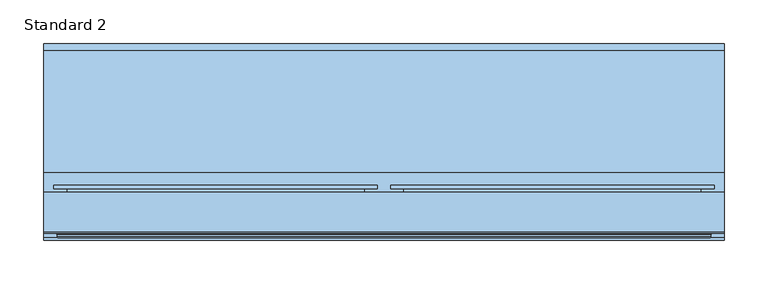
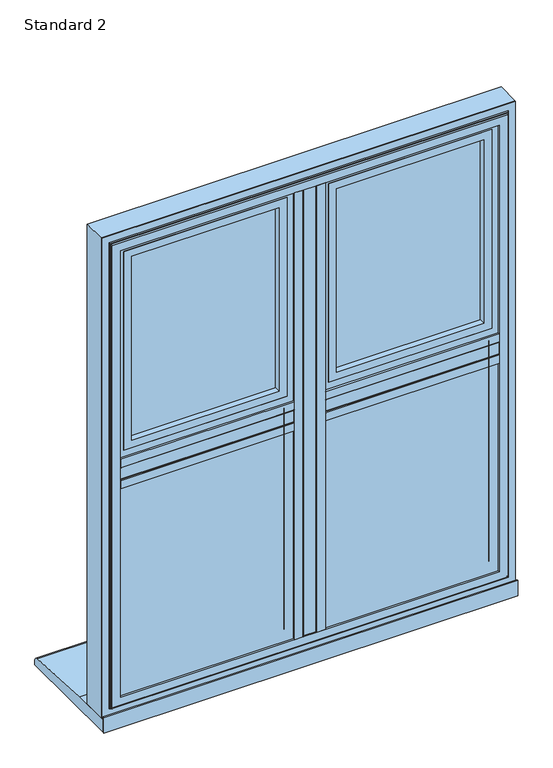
"""IFC4 building model written with IfcOpenShell, lengths in millimetres: window geometry, SMARTS_AlithermHeritage : Standard 2."""

from ifc_helpers import new_model, si_unit, point, frame, frame_2d, origin, place, context, project, spatial, polyline, circle_curve, ellipse_curve, trimmed, segment, composite_curve, outline, extrude, faceted_brep, source, transform, mapped, element, save
from ifc_brep_helpers import plane_surface, cylinder_surface, revolved_surface, advanced_brep


def standard_2_dd93400c(model_context):
    return source(origin(), model_context, "Body", "SolidModel", [
        extrude(outline(polyline([(-13.6941456, 95.2798432), (13.6941456, 95.2798432), (13.6941456, 47.279476), (-13.6941456, 47.279476), (-13.6941456, 95.2798432)])), frame((0.0, 0.0, 652.6941456), z_axis=(0.0, 0.0, 1.0), x_axis=(1.0, 0.0, 0.0)), (0.0, 0.0, 1.0), 919.6117089),
        extrude(outline(composite_curve([segment(polyline([(-29.0, 47.279476), (29.0, 47.279476), (29.0, 43.2798432), (13.0, 43.2798432)]), True, "CONTINUOUS"), segment(trimmed(circle_curve(frame_2d((13.0, 44.2798432)), 1.0), [point((13.0, 43.2798432))], [point((12.0, 44.2798432))], False, "CARTESIAN"), True, "CONTINUOUS"), segment(polyline([(12.0, 44.2798432), (12.0, 45.7798432), (-12.0, 45.7798432), (-12.0, 44.2798432)]), True, "CONTINUOUS"), segment(trimmed(circle_curve(frame_2d((-13.0, 44.2798432)), 1.0), [point((-12.0, 44.2798432))], [point((-13.0, 43.2798432))], False, "CARTESIAN"), True, "CONTINUOUS"), segment(polyline([(-13.0, 43.2798432), (-29.0, 43.2798432), (-29.0, 47.279476)]), True, "CONTINUOUS")], self_intersect=False)), frame((0.0, 0.0, 668.0), z_axis=(0.0, 0.0, 1.0), x_axis=(1.0, 0.0, 0.0)), (0.0, 0.0, 1.0), 889.0),
        extrude(outline(polyline([(-13.6941456, 95.2798432), (-13.6941456, 47.279476), (-372.3058544, 47.279476), (-372.3058544, 95.2798432), (-13.6941456, 95.2798432)])), frame((0.0, 0.0, 1098.8058544), z_axis=(0.0, 0.0, 1.0), x_axis=(1.0, 0.0, 0.0)), (0.0, 0.0, 1.0), 27.3882911),
        extrude(outline(composite_curve([segment(polyline([(47.279476, 1083.5), (43.2798432, 1083.5), (43.2798432, 1099.5)]), True, "CONTINUOUS"), segment(trimmed(circle_curve(frame_2d((44.2798432, 1099.5)), 1.0), [point((43.2798432, 1099.5))], [point((44.2798432, 1100.5))], False, "CARTESIAN"), True, "CONTINUOUS"), segment(polyline([(44.2798432, 1100.5), (45.7798432, 1100.5), (45.7798432, 1124.5), (44.2798432, 1124.5)]), True, "CONTINUOUS"), segment(trimmed(circle_curve(frame_2d((44.2798432, 1125.5)), 1.0), [point((44.2798432, 1124.5))], [point((43.2798432, 1125.5))], False, "CARTESIAN"), True, "CONTINUOUS"), segment(polyline([(43.2798432, 1125.5), (43.2798432, 1141.5), (47.279476, 1141.5), (47.279476, 1083.5)]), True, "CONTINUOUS")], self_intersect=False)), frame((-357.0, 0.0, 0.0), z_axis=(1.0, 0.0, 0.0), x_axis=(0.0, 1.0, 0.0)), (0.0, 0.0, 1.0), 328.0),
        extrude(outline(polyline([(372.3058544, 95.2798432), (372.3058544, 47.279476), (13.6941456, 47.279476), (13.6941456, 95.2798432), (372.3058544, 95.2798432)])), frame((0.0, 0.0, 1098.8058544), z_axis=(0.0, 0.0, 1.0), x_axis=(1.0, 0.0, 0.0)), (0.0, 0.0, 1.0), 27.3882911),
        extrude(outline(composite_curve([segment(polyline([(47.279476, 1083.5), (43.2798432, 1083.5), (43.2798432, 1099.5)]), True, "CONTINUOUS"), segment(trimmed(circle_curve(frame_2d((44.2798432, 1099.5)), 1.0), [point((43.2798432, 1099.5))], [point((44.2798432, 1100.5))], False, "CARTESIAN"), True, "CONTINUOUS"), segment(polyline([(44.2798432, 1100.5), (45.7798432, 1100.5), (45.7798432, 1124.5), (44.2798432, 1124.5)]), True, "CONTINUOUS"), segment(trimmed(circle_curve(frame_2d((44.2798432, 1125.5)), 1.0), [point((44.2798432, 1124.5))], [point((43.2798432, 1125.5))], False, "CARTESIAN"), True, "CONTINUOUS"), segment(polyline([(43.2798432, 1125.5), (43.2798432, 1141.5), (47.279476, 1141.5), (47.279476, 1083.5)]), True, "CONTINUOUS")], self_intersect=False)), frame((29.0, 0.0, 0.0), z_axis=(1.0, 0.0, 0.0), x_axis=(0.0, 1.0, 0.0)), (0.0, 0.0, 1.0), 328.0),
        extrude(outline(polyline([(-367.0, 75.2798432), (-19.0, 75.2798432), (-19.0, 71.2798432), (-367.0, 71.2798432), (-367.0, 75.2798432)])), frame((0.0, 0.0, 658.0), z_axis=(0.0, 0.0, 1.0), x_axis=(1.0, 0.0, 0.0)), (0.0, 0.0, 1.0), 435.5),
        extrude(outline(polyline([(-367.0, 55.2798432), (-19.0, 55.2798432), (-19.0, 51.2798432), (-367.0, 51.2798432), (-367.0, 55.2798432)])), frame((0.0, 0.0, 658.0), z_axis=(0.0, 0.0, 1.0), x_axis=(1.0, 0.0, 0.0)), (0.0, 0.0, 1.0), 435.5),
        extrude(outline(polyline([(1093.5, -367.0), (658.0, -367.0), (658.0, -19.0), (1093.5, -19.0), (1093.5, -367.0)]), holes=[polyline([(1083.5, -29.0), (668.0, -29.0), (668.0, -357.0), (1083.5, -357.0), (1083.5, -29.0)])]), frame((0.0, 55.2798432, 0.0), z_axis=(0.0, 1.0, 0.0), x_axis=(0.0, 0.0, 1.0)), (0.0, 0.0, 1.0), 16.0),
        faceted_brep([(-19.1851151, 95.2798432, 1093.3148849), (-29.0, 78.2798098, 1083.5), (-357.0, 78.2798098, 1083.5), (-366.8148849, 95.2798432, 1093.3148849), (-13.6297324, 78.2798098, 1098.8702676), (-13.6297324, 95.2798432, 1098.8702676), (-372.3702676, 95.2798432, 1098.8702676), (-372.3702676, 78.2798098, 1098.8702676), (-372.3702676, 78.2798098, 652.6297324), (-372.3702676, 95.2798432, 652.6297324), (-13.6297324, 95.2798432, 652.6297324), (-13.6297324, 78.2798098, 652.6297324), (-366.8148849, 95.2798432, 658.1851151), (-19.1851151, 95.2798432, 658.1851151), (-29.0, 78.2798098, 668.0), (-357.0, 78.2798098, 668.0)], [[[0, 1, 2, 3]], [[4, 5, 6, 7]], [[8, 9, 10, 11]], [[5, 10, 9, 6], [3, 12, 13, 0]], [[7, 8, 11, 4], [1, 14, 15, 2]], [[3, 2, 15, 12]], [[7, 6, 9, 8]], [[12, 15, 14, 13]], [[13, 14, 1, 0]], [[11, 10, 5, 4]]]),
        extrude(outline(polyline([(-343.5, 89.2798432), (-42.5, 89.2798432), (-42.5, 85.2798432), (-343.5, 85.2798432), (-343.5, 89.2798432)])), frame((0.0, 0.0, 1155.0), z_axis=(0.0, 0.0, 1.0), x_axis=(1.0, 0.0, 0.0)), (0.0, 0.0, 1.0), 388.5),
        extrude(outline(polyline([(-343.5, 69.2798432), (-42.5, 69.2798432), (-42.5, 65.2798432), (-343.5, 65.2798432), (-343.5, 69.2798432)])), frame((0.0, 0.0, 1155.0), z_axis=(0.0, 0.0, 1.0), x_axis=(1.0, 0.0, 0.0)), (0.0, 0.0, 1.0), 388.5),
        extrude(outline(polyline([(1543.5, -343.5), (1155.0, -343.5), (1155.0, -42.5), (1543.5, -42.5), (1543.5, -343.5)]), holes=[polyline([(1533.5, -52.5), (1165.0, -52.5), (1165.0, -333.5), (1533.5, -333.5), (1533.5, -52.5)])]), frame((0.0, 69.2798432, 0.0), z_axis=(0.0, 1.0, 0.0), x_axis=(0.0, 0.0, 1.0)), (0.0, 0.0, 1.0), 16.0),
        extrude(outline(polyline([(1547.0052956, -347.0052956), (1151.4947044, -347.0052956), (1151.4947044, -38.9947044), (1547.0052956, -38.9947044), (1547.0052956, -347.0052956)]), holes=[polyline([(1532.0, -54.0), (1166.5, -54.0), (1166.5, -332.0), (1532.0, -332.0), (1532.0, -54.0)])]), frame((0.0, 51.2798432, 0.0), z_axis=(0.0, 1.0, 0.0), x_axis=(0.0, 0.0, 1.0)), (0.0, 0.0, 1.0), 11.3),
        extrude(outline(polyline([(1135.8548042, -362.6451958), (1135.8548042, -23.3548042), (1562.6451958, -23.3548042), (1562.6451958, -362.6451958), (1135.8548042, -362.6451958)]), holes=[polyline([(1547.0, -347.0), (1547.0, -39.0), (1151.5, -39.0), (1151.5, -347.0), (1547.0, -347.0)])]), frame((0.0, 51.2798432, 0.0), z_axis=(0.0, 1.0, 0.0), x_axis=(0.0, 0.0, 1.0)), (0.0, 0.0, 1.0), 41.6),
        advanced_brep(
        [(-332.0, 98.0798432, 1532.0), (-332.0, 92.8798432, 1532.0), (-332.0, 92.8798432, 1166.5), (-332.0, 98.0798432, 1166.5), (-54.0, 92.8798432, 1166.5), (-54.0, 98.0798432, 1166.5), (-54.0, 92.8798432, 1532.0), (-54.0, 98.0798432, 1532.0), (-378.2, 99.2798432, 1578.2), (-378.2, 103.2798432, 1578.2), (-378.2, 103.2798432, 1120.3), (-378.2, 99.2798432, 1120.3), (-7.8, 103.2798432, 1120.3), (-7.8, 99.2798432, 1120.3), (-7.8, 103.2798432, 1578.2), (-7.8, 99.2798432, 1578.2), (-363.1467657, 99.2798432, 1563.1467657), (-22.8532343, 99.2798432, 1563.1467657), (-22.8532343, 99.2798432, 1135.3532343), (-363.1467657, 99.2798432, 1135.3532343), (-349.2, 103.2798432, 1149.3), (-36.8, 103.2798432, 1149.3), (-36.8, 103.2798432, 1549.2), (-349.2, 103.2798432, 1549.2), (-363.1467657, 92.8798432, 1563.1467657), (-363.1467657, 92.8798432, 1135.3532343), (-22.8532343, 92.8798432, 1135.3532343), (-22.8532343, 92.8798432, 1563.1467657), (-347.2, 101.2798432, 1547.2), (-347.2, 100.0798432, 1547.2), (-347.2, 100.0798432, 1151.3), (-347.2, 101.2798432, 1151.3), (-345.2, 98.0798432, 1545.2), (-345.2, 98.0798432, 1153.3), (-38.8, 100.0798432, 1151.3), (-38.8, 101.2798432, 1151.3), (-40.8, 98.0798432, 1153.3), (-38.8, 100.0798432, 1547.2), (-38.8, 101.2798432, 1547.2), (-40.8, 98.0798432, 1545.2)],
        [
            (0, 1),
            (1, 2),
            (2, 3),
            (3, 0),
            (2, 4),
            (4, 5),
            (5, 3),
            (4, 6),
            (6, 7),
            (7, 5),
            (6, 1),
            (0, 7),
            (8, 9),
            (9, 10),
            (10, 11),
            (11, 8),
            (10, 12),
            (12, 13),
            (13, 11),
            (12, 14),
            (14, 15),
            (15, 13),
            (15, 8),
            (16, 17),
            (17, 18),
            (18, 19),
            (19, 16),
            (14, 9),
            (20, 21),
            (21, 22),
            (22, 23),
            (23, 20),
            (24, 16),
            (19, 25),
            (25, 24),
            (18, 26),
            (26, 25),
            (17, 27),
            (27, 26),
            (27, 24),
            (28, 29),
            (29, 30),
            (30, 31),
            (31, 28),
            (29, 32, ellipse_curve(frame((-345.2, 100.0798432, 1545.2), z_axis=(0.7071067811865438, 0.0, 0.7071067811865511), x_axis=(0.707106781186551, 0.0, -0.7071067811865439)), 2.8284271, 2.0)),
            (32, 33),
            (33, 30, ellipse_curve(frame((-345.2, 100.0798432, 1153.3), z_axis=(0.7071067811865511, 0.0, -0.7071067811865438), x_axis=(-0.7071067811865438, 0.0, -0.7071067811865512)), 2.8284271, 2.0)),
            (30, 34),
            (34, 35),
            (35, 31),
            (33, 36),
            (36, 34, ellipse_curve(frame((-40.8, 100.0798432, 1153.3), z_axis=(0.7071067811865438, 0.0, 0.7071067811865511), x_axis=(0.7071067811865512, 0.0, -0.7071067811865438)), 2.8284271, 2.0)),
            (34, 37),
            (37, 38),
            (38, 35),
            (36, 39),
            (39, 37, ellipse_curve(frame((-40.8, 100.0798432, 1545.2), z_axis=(-0.7071067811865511, 0.0, 0.7071067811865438), x_axis=(0.7071067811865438, 0.0, 0.7071067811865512)), 2.8284271, 2.0)),
            (32, 39),
            (37, 29),
            (28, 38),
            (23, 28, ellipse_curve(frame((-349.2, 101.2798432, 1549.2), z_axis=(-0.7071067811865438, 0.0, -0.7071067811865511), x_axis=(-0.707106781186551, 0.0, 0.7071067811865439)), 2.8284271, 2.0)),
            (31, 20, ellipse_curve(frame((-349.2, 101.2798432, 1149.3), z_axis=(-0.7071067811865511, 0.0, 0.7071067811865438), x_axis=(0.7071067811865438, 0.0, 0.7071067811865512)), 2.8284271, 2.0)),
            (35, 21, ellipse_curve(frame((-36.8, 101.2798432, 1149.3), z_axis=(-0.7071067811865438, 0.0, -0.7071067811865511), x_axis=(-0.7071067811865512, 0.0, 0.7071067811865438)), 2.8284271, 2.0)),
            (38, 22, ellipse_curve(frame((-36.8, 101.2798432, 1549.2), z_axis=(0.7071067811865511, 0.0, -0.7071067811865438), x_axis=(-0.7071067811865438, 0.0, -0.7071067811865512)), 2.8284271, 2.0)),
        ],
        [
            plane_surface(frame((-332.0, 92.8798432, 1532.0), z_axis=(1.0, 0.0, 0.0), x_axis=(0.0, 0.0, -1.0))),
            plane_surface(frame((-332.0, 92.8798432, 1166.5), z_axis=(0.0, 0.0, 1.0), x_axis=(1.0, 0.0, 0.0))),
            plane_surface(frame((-54.0, 92.8798432, 1166.5), z_axis=(-1.0, 0.0, 0.0), x_axis=(0.0, 0.0, 1.0))),
            plane_surface(frame((-54.0, 92.8798432, 1532.0), z_axis=(0.0, 0.0, -1.0), x_axis=(-1.0, 0.0, 0.0))),
            plane_surface(frame((-378.2, 103.2798432, 1578.2), z_axis=(-1.0, 0.0, 0.0), x_axis=(0.0, 0.0, -1.0))),
            plane_surface(frame((-378.2, 103.2798432, 1120.3), z_axis=(0.0, 0.0, -1.0), x_axis=(1.0, 0.0, 0.0))),
            plane_surface(frame((-7.8, 103.2798432, 1120.3), z_axis=(1.0, 0.0, 0.0), x_axis=(0.0, 0.0, 1.0))),
            plane_surface(frame((-7.8, 99.2798432, 1578.2), z_axis=(0.0, -1.0, 0.0), x_axis=(-1.0, 0.0, 0.0))),
            plane_surface(frame((-7.8, 103.2798432, 1578.2), z_axis=(0.0, 0.0, 1.0), x_axis=(-1.0, 0.0, 0.0))),
            plane_surface(frame((-36.8, 103.2798432, 1549.2), z_axis=(0.0, 1.0, 0.0), x_axis=(-1.0, 0.0, 0.0))),
            plane_surface(frame((-363.1467657, 99.2798432, 1563.1467657), z_axis=(-1.0, 0.0, 0.0), x_axis=(0.0, 0.0, -1.0))),
            plane_surface(frame((-363.1467657, 99.2798432, 1135.3532343), z_axis=(0.0, 0.0, -1.0), x_axis=(1.0, 0.0, 0.0))),
            plane_surface(frame((-22.8532343, 99.2798432, 1135.3532343), z_axis=(1.0, 0.0, 0.0), x_axis=(0.0, 0.0, 1.0))),
            plane_surface(frame((-22.8532343, 92.8798432, 1563.1467657), z_axis=(0.0, -1.0, 0.0), x_axis=(-1.0, 0.0, 0.0))),
            plane_surface(frame((-22.8532343, 99.2798432, 1563.1467657), z_axis=(0.0, 0.0, 1.0), x_axis=(-1.0, 0.0, 0.0))),
            plane_surface(frame((-347.2, 100.0798432, 1547.2), z_axis=(1.0, 0.0, 0.0), x_axis=(0.0, 0.0, -1.0))),
            revolved_surface(polyline([(-347.2, 100.0798432, 1151.3), (-347.2, 100.0798432, 1547.2)]), (-345.2, 100.0798432, 1557.0), (0.0, 0.0, -1.0)),
            plane_surface(frame((-347.2, 100.0798432, 1151.3), z_axis=(0.0, 0.0, 1.0), x_axis=(1.0, 0.0, 0.0))),
            revolved_surface(polyline([(-38.80000000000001, 100.0798432, 1151.3), (-347.2, 100.0798432, 1151.3)]), (-357.0, 100.0798432, 1153.3), (1.0, 0.0, 0.0)),
            plane_surface(frame((-38.8, 100.0798432, 1151.3), z_axis=(-1.0, 0.0, 0.0), x_axis=(0.0, 0.0, 1.0))),
            revolved_surface(polyline([(-38.8, 100.0798432, 1547.2), (-38.8, 100.0798432, 1151.3)]), (-40.8, 100.0798432, 1141.5), (0.0, 0.0, 1.0)),
            plane_surface(frame((-54.0, 98.0798432, 1532.0), z_axis=(0.0, 1.0, 0.0), x_axis=(-1.0, 0.0, 0.0))),
            plane_surface(frame((-38.8, 100.0798432, 1547.2), z_axis=(0.0, 0.0, -1.0), x_axis=(-1.0, 0.0, 0.0))),
            revolved_surface(polyline([(-347.2, 100.0798432, 1547.2), (-38.8, 100.0798432, 1547.2)]), (-29.0, 100.0798432, 1545.2), (-1.0, 0.0, 0.0)),
            cylinder_surface(frame((-349.2, 101.2798432, 1557.0), z_axis=(0.0, 0.0, 1.0), x_axis=(-1.0, 0.0, 0.0)), 2.0),
            cylinder_surface(frame((-357.0, 101.2798432, 1149.3), z_axis=(-1.0, 0.0, 0.0), x_axis=(0.0, 0.0, -1.0)), 2.0),
            cylinder_surface(frame((-36.8, 101.2798432, 1141.5), z_axis=(0.0, 0.0, -1.0), x_axis=(1.0, 0.0, 0.0)), 2.0),
            cylinder_surface(frame((-29.0, 101.2798432, 1549.2), z_axis=(1.0, 0.0, 0.0), x_axis=(0.0, 0.0, 1.0)), 2.0),
        ],
        [
            (0, [[1, 2, 3, 4]]),
            (1, [[-3, 5, 6, 7]]),
            (2, [[-6, 8, 9, 10]]),
            (3, [[-9, 11, -1, 12]]),
            (4, [[13, 14, 15, 16]]),
            (5, [[-15, 17, 18, 19]]),
            (6, [[-18, 20, 21, 22]]),
            (7, [[-19, -22, 23, -16], [24, 25, 26, 27]]),
            (8, [[-21, 28, -13, -23]]),
            (9, [[-28, -20, -17, -14], [29, 30, 31, 32]]),
            (10, [[33, -27, 34, 35]]),
            (11, [[-34, -26, 36, 37]]),
            (12, [[-36, -25, 38, 39]]),
            (13, [[-37, -39, 40, -35], [-11, -8, -5, -2]]),
            (14, [[-38, -24, -33, -40]]),
            (15, [[41, 42, 43, 44]]),
            (16, [[45, 46, 47, -42]]),
            (17, [[-43, 48, 49, 50]]),
            (18, [[-47, 51, 52, -48]]),
            (19, [[-49, 53, 54, 55]]),
            (20, [[-52, 56, 57, -53]]),
            (21, [[58, -56, -51, -46], [-7, -10, -12, -4]]),
            (22, [[-54, 59, -41, 60]]),
            (23, [[-57, -58, -45, -59]]),
            (24, [[61, -44, 62, -32]]),
            (25, [[-62, -50, 63, -29]]),
            (26, [[-63, -55, 64, -30]]),
            (27, [[-64, -60, -61, -31]]),
        ],
    ),
        extrude(outline(polyline([(19.0, 75.2798432), (367.0, 75.2798432), (367.0, 71.2798432), (19.0, 71.2798432), (19.0, 75.2798432)])), frame((0.0, 0.0, 658.0), z_axis=(0.0, 0.0, 1.0), x_axis=(1.0, 0.0, 0.0)), (0.0, 0.0, 1.0), 435.5),
        extrude(outline(polyline([(19.0, 55.2798432), (367.0, 55.2798432), (367.0, 51.2798432), (19.0, 51.2798432), (19.0, 55.2798432)])), frame((0.0, 0.0, 658.0), z_axis=(0.0, 0.0, 1.0), x_axis=(1.0, 0.0, 0.0)), (0.0, 0.0, 1.0), 435.5),
        extrude(outline(polyline([(1093.5, 19.0), (658.0, 19.0), (658.0, 367.0), (1093.5, 367.0), (1093.5, 19.0)]), holes=[polyline([(1083.5, 357.0), (668.0, 357.0), (668.0, 29.0), (1083.5, 29.0), (1083.5, 357.0)])]), frame((0.0, 55.2798432, 0.0), z_axis=(0.0, 1.0, 0.0), x_axis=(0.0, 0.0, 1.0)), (0.0, 0.0, 1.0), 16.0),
        faceted_brep([(366.8148849, 95.2798432, 1093.3148849), (357.0, 78.2798098, 1083.5), (29.0, 78.2798098, 1083.5), (19.1851151, 95.2798432, 1093.3148849), (372.3702676, 78.2798098, 1098.8702676), (372.3702676, 95.2798432, 1098.8702676), (13.6297324, 95.2798432, 1098.8702676), (13.6297324, 78.2798098, 1098.8702676), (13.6297324, 78.2798098, 652.6297324), (13.6297324, 95.2798432, 652.6297324), (372.3702676, 95.2798432, 652.6297324), (372.3702676, 78.2798098, 652.6297324), (19.1851151, 95.2798432, 658.1851151), (366.8148849, 95.2798432, 658.1851151), (357.0, 78.2798098, 668.0), (29.0, 78.2798098, 668.0)], [[[0, 1, 2, 3]], [[4, 5, 6, 7]], [[8, 9, 10, 11]], [[5, 10, 9, 6], [3, 12, 13, 0]], [[7, 8, 11, 4], [1, 14, 15, 2]], [[3, 2, 15, 12]], [[7, 6, 9, 8]], [[12, 15, 14, 13]], [[13, 14, 1, 0]], [[11, 10, 5, 4]]]),
        extrude(outline(polyline([(1590.0, 390.0), (1590.0, -390.0), (635.0, -390.0), (635.0, 390.0), (1590.0, 390.0)]), holes=[polyline([(652.7000182, 372.2999818), (652.7000182, -372.2999818), (1572.2999818, -372.2999818), (1572.2999818, 372.2999818), (652.7000182, 372.2999818)])]), frame((0.0, 50.279857, 0.0), z_axis=(0.0, 1.0, 0.0), x_axis=(0.0, 0.0, 1.0)), (0.0, 0.0, 1.0), 44.9999962),
        advanced_brep(
        [(357.0, 43.2798432, 1557.0), (357.0, 47.2798432, 1557.0), (357.0, 47.2798432, 668.0), (357.0, 43.2798432, 668.0), (390.0, 50.279857, 1590.0), (390.0, 48.279857, 1590.0), (390.0, 48.279857, 635.0), (390.0, 50.279857, 635.0), (372.4999818, 43.2798432, 1572.4999818), (-372.4999818, 43.2798432, 1572.4999818), (-372.4999818, 43.2798432, 652.5000182), (372.4999818, 43.2798432, 652.5000182), (-357.0, 43.2798432, 668.0), (-357.0, 43.2798432, 1557.0), (-390.0, 50.279857, 1590.0), (-390.0, 48.279857, 1590.0), (-390.0, 50.279857, 635.0), (372.2999818, 50.279857, 1572.2999818), (-372.2999818, 50.279857, 1572.2999818), (-372.2999818, 50.279857, 652.7000182), (372.2999818, 50.279857, 652.7000182), (-357.0, 47.2798432, 1557.0), (-357.0, 47.2798432, 668.0), (-390.0, 48.279857, 635.0), (-372.2999818, 47.2798432, 1572.2999818), (372.2999818, 47.2798432, 1572.2999818), (372.2999818, 47.2798432, 652.7000182), (374.4999818, 46.779857, 650.5000182), (374.4999818, 45.2798432, 650.5000182), (-374.4999818, 45.2798432, 650.5000182), (-374.4999818, 46.779857, 650.5000182), (374.4999818, 46.779857, 1574.4999818), (374.4999818, 45.2798432, 1574.4999818), (-372.2999818, 47.2798432, 652.7000182), (-374.4999818, 45.2798432, 1574.4999818), (-374.4999818, 46.779857, 1574.4999818), (375.9999818, 48.279857, 1575.9999818), (375.9999818, 48.279857, 649.0000182), (-375.9999818, 48.279857, 649.0000182), (-375.9999818, 48.279857, 1575.9999818)],
        [
            (0, 1),
            (1, 2),
            (2, 3),
            (3, 0),
            (4, 5),
            (5, 6),
            (6, 7),
            (7, 4),
            (8, 9),
            (9, 10),
            (10, 11),
            (11, 8),
            (3, 12),
            (12, 13),
            (13, 0),
            (14, 15),
            (15, 5),
            (4, 14),
            (7, 16),
            (16, 14),
            (17, 18),
            (18, 19),
            (19, 20),
            (20, 17),
            (13, 21),
            (21, 1),
            (2, 22),
            (22, 12),
            (22, 21),
            (6, 23),
            (23, 16),
            (23, 15),
            (24, 18),
            (17, 25),
            (25, 24),
            (20, 26),
            (26, 25),
            (27, 28),
            (28, 29),
            (29, 30),
            (30, 27),
            (31, 32),
            (32, 28),
            (27, 31),
            (19, 33),
            (33, 26),
            (24, 33),
            (29, 34),
            (34, 35),
            (35, 30),
            (34, 32),
            (31, 35),
            (36, 31, ellipse_curve(frame((375.9999818, 46.779857, 1575.9999818), z_axis=(-0.7071067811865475, 0.0, 0.7071067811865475), x_axis=(-0.7071067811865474, 0.0, -0.7071067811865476)), 2.1213203, 1.5)),
            (27, 37, ellipse_curve(frame((375.9999818, 46.779857, 649.0000182), z_axis=(-0.7071067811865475, 0.0, -0.7071067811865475), x_axis=(0.7071067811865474, 0.0, -0.7071067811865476)), 2.1213203, 1.5)),
            (37, 36),
            (30, 38, ellipse_curve(frame((-375.9999818, 46.779857, 649.0000182), z_axis=(-0.7071067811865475, 0.0, 0.7071067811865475), x_axis=(-0.7071067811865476, 0.0, -0.7071067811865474)), 2.1213203, 1.5)),
            (38, 37),
            (35, 39, ellipse_curve(frame((-375.9999818, 46.779857, 1575.9999818), z_axis=(0.7071067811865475, 0.0, 0.7071067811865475), x_axis=(-0.7071067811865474, 0.0, 0.7071067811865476)), 2.1213203, 1.5)),
            (39, 38),
            (36, 39),
            (32, 8, ellipse_curve(frame((372.4999818, 45.2798432, 1572.4999818), z_axis=(0.7071067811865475, 0.0, -0.7071067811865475), x_axis=(0.7071067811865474, 0.0, 0.7071067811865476)), 2.8284271, 2.0)),
            (11, 28, ellipse_curve(frame((372.4999818, 45.2798432, 652.5000182), z_axis=(0.7071067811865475, 0.0, 0.7071067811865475), x_axis=(-0.7071067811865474, 0.0, 0.7071067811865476)), 2.8284271, 2.0)),
            (10, 29, ellipse_curve(frame((-372.4999818, 45.2798432, 652.5000182), z_axis=(0.7071067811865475, 0.0, -0.7071067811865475), x_axis=(0.7071067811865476, 0.0, 0.7071067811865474)), 2.8284271, 2.0)),
            (9, 34, ellipse_curve(frame((-372.4999818, 45.2798432, 1572.4999818), z_axis=(-0.7071067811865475, 0.0, -0.7071067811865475), x_axis=(0.7071067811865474, 0.0, -0.7071067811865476)), 2.8284271, 2.0)),
        ],
        [
            plane_surface(frame((357.0, 47.2798432, 1557.0), z_axis=(-1.0, 0.0, 0.0), x_axis=(0.0, 0.0, -1.0))),
            plane_surface(frame((390.0, 48.279857, 1590.0), z_axis=(1.0, 0.0, 0.0), x_axis=(0.0, 0.0, -1.0))),
            plane_surface(frame((-357.0, 43.2798432, 1557.0), z_axis=(0.0, -1.0, 0.0), x_axis=(1.0, 0.0, 0.0))),
            plane_surface(frame((-390.0, 48.279857, 1590.0), z_axis=(0.0, 0.0, 1.0), x_axis=(1.0, 0.0, 0.0))),
            plane_surface(frame((-390.0, 50.279857, 1590.0), z_axis=(0.0, 1.0, 0.0), x_axis=(1.0, 0.0, 0.0))),
            plane_surface(frame((-357.0, 47.2798432, 1557.0), z_axis=(0.0, 0.0, -1.0), x_axis=(1.0, 0.0, 0.0))),
            plane_surface(frame((357.0, 47.2798432, 668.0), z_axis=(0.0, 0.0, 1.0), x_axis=(-1.0, 0.0, 0.0))),
            plane_surface(frame((-357.0, 47.2798432, 668.0), z_axis=(1.0, 0.0, 0.0), x_axis=(0.0, 0.0, 1.0))),
            plane_surface(frame((390.0, 48.279857, 635.0), z_axis=(0.0, 0.0, -1.0), x_axis=(-1.0, 0.0, 0.0))),
            plane_surface(frame((-390.0, 48.279857, 635.0), z_axis=(-1.0, 0.0, 0.0), x_axis=(0.0, 0.0, 1.0))),
            plane_surface(frame((-372.2999818, 50.279857, 1572.2999818), z_axis=(0.0, 0.0, -1.0), x_axis=(1.0, 0.0, 0.0))),
            plane_surface(frame((372.2999818, 50.279857, 1572.2999818), z_axis=(-1.0, 0.0, 0.0), x_axis=(0.0, 0.0, -1.0))),
            plane_surface(frame((374.4999818, 45.2798432, 650.5000182), z_axis=(0.0, 0.0, -1.0), x_axis=(-1.0, 0.0, 0.0))),
            plane_surface(frame((374.4999818, 45.2798432, 1574.4999818), z_axis=(1.0, 0.0, 0.0), x_axis=(0.0, 0.0, -1.0))),
            plane_surface(frame((372.2999818, 50.279857, 652.7000182), z_axis=(0.0, 0.0, 1.0), x_axis=(-1.0, 0.0, 0.0))),
            plane_surface(frame((-372.2999818, 50.279857, 652.7000182), z_axis=(1.0, 0.0, 0.0), x_axis=(0.0, 0.0, 1.0))),
            plane_surface(frame((-374.4999818, 45.2798432, 650.5000182), z_axis=(-1.0, 0.0, 0.0), x_axis=(0.0, 0.0, 1.0))),
            plane_surface(frame((-372.2999818, 47.2798432, 1572.2999818), z_axis=(0.0, 1.0, 0.0), x_axis=(1.0, 0.0, 0.0))),
            plane_surface(frame((-374.4999818, 45.2798432, 1574.4999818), z_axis=(0.0, 0.0, 1.0), x_axis=(1.0, 0.0, 0.0))),
            revolved_surface(polyline([(374.4999818, 46.779857, 647.5000182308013), (374.4999818, 46.779857, 1577.4999817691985)]), (375.9999818, 46.779857, 1590.0), (0.0, 0.0, -1.0)),
            revolved_surface(polyline([(-377.4999817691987, 46.779857, 650.5000182), (377.49998176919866, 46.779857, 650.5000182)]), (390.0, 46.779857, 649.0000182), (-1.0, 0.0, 0.0)),
            revolved_surface(polyline([(-374.4999818, 46.779857, 1577.4999817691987), (-374.4999818, 46.779857, 647.5000182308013)]), (-375.9999818, 46.779857, 635.0), (0.0, 0.0, 1.0)),
            revolved_surface(polyline([(377.4999817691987, 46.779857, 1574.4999818), (-377.49998176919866, 46.779857, 1574.4999818)]), (-390.0, 46.779857, 1575.9999818), (1.0, 0.0, 0.0)),
            plane_surface(frame((-375.9999818, 48.279857, 1575.9999818), z_axis=(0.0, -1.0, 0.0), x_axis=(1.0, 0.0, 0.0))),
            cylinder_surface(frame((372.4999818, 45.2798432, 1590.0), z_axis=(0.0, 0.0, 1.0), x_axis=(-1.0, 0.0, 0.0)), 2.0),
            cylinder_surface(frame((390.0, 45.2798432, 652.5000182), z_axis=(1.0, 0.0, 0.0), x_axis=(0.0, 0.0, 1.0)), 2.0),
            cylinder_surface(frame((-372.4999818, 45.2798432, 635.0), z_axis=(0.0, 0.0, -1.0), x_axis=(1.0, 0.0, 0.0)), 2.0),
            cylinder_surface(frame((-390.0, 45.2798432, 1572.4999818), z_axis=(-1.0, 0.0, 0.0), x_axis=(0.0, 0.0, -1.0)), 2.0),
        ],
        [
            (0, [[1, 2, 3, 4]]),
            (1, [[5, 6, 7, 8]]),
            (2, [[9, 10, 11, 12], [13, 14, 15, -4]]),
            (3, [[16, 17, -5, 18]]),
            (4, [[19, 20, -18, -8], [21, 22, 23, 24]]),
            (5, [[25, 26, -1, -15]]),
            (6, [[-3, 27, 28, -13]]),
            (7, [[-28, 29, -25, -14]]),
            (8, [[-7, 30, 31, -19]]),
            (9, [[-31, 32, -16, -20]]),
            (10, [[33, -21, 34, 35]]),
            (11, [[-34, -24, 36, 37]]),
            (12, [[38, 39, 40, 41]]),
            (13, [[42, 43, -38, 44]]),
            (14, [[-36, -23, 45, 46]]),
            (15, [[-45, -22, -33, 47]]),
            (16, [[-40, 48, 49, 50]]),
            (17, [[-46, -47, -35, -37], [-26, -29, -27, -2]]),
            (18, [[-49, 51, -42, 52]]),
            (19, [[53, -44, 54, 55]]),
            (20, [[-54, -41, 56, 57]]),
            (21, [[-56, -50, 58, 59]]),
            (22, [[-58, -52, -53, 60]]),
            (23, [[-17, -32, -30, -6], [-57, -59, -60, -55]]),
            (24, [[61, -12, 62, -43]]),
            (25, [[-62, -11, 63, -39]]),
            (26, [[-63, -10, 64, -48]]),
            (27, [[-64, -9, -61, -51]]),
        ],
    ),
        extrude(outline(polyline([(42.5, 89.2798432), (343.5, 89.2798432), (343.5, 85.2798432), (42.5, 85.2798432), (42.5, 89.2798432)])), frame((0.0, 0.0, 1155.0), z_axis=(0.0, 0.0, 1.0), x_axis=(1.0, 0.0, 0.0)), (0.0, 0.0, 1.0), 388.5),
        extrude(outline(polyline([(42.5, 69.2798432), (343.5, 69.2798432), (343.5, 65.2798432), (42.5, 65.2798432), (42.5, 69.2798432)])), frame((0.0, 0.0, 1155.0), z_axis=(0.0, 0.0, 1.0), x_axis=(1.0, 0.0, 0.0)), (0.0, 0.0, 1.0), 388.5),
        extrude(outline(polyline([(1543.5, 42.5), (1155.0, 42.5), (1155.0, 343.5), (1543.5, 343.5), (1543.5, 42.5)]), holes=[polyline([(1533.5, 333.5), (1165.0, 333.5), (1165.0, 52.5), (1533.5, 52.5), (1533.5, 333.5)])]), frame((0.0, 69.2798432, 0.0), z_axis=(0.0, 1.0, 0.0), x_axis=(0.0, 0.0, 1.0)), (0.0, 0.0, 1.0), 16.0),
        extrude(outline(polyline([(1547.0052956, 38.9947044), (1151.4947044, 38.9947044), (1151.4947044, 347.0052956), (1547.0052956, 347.0052956), (1547.0052956, 38.9947044)]), holes=[polyline([(1532.0, 332.0), (1166.5, 332.0), (1166.5, 54.0), (1532.0, 54.0), (1532.0, 332.0)])]), frame((0.0, 51.2798432, 0.0), z_axis=(0.0, 1.0, 0.0), x_axis=(0.0, 0.0, 1.0)), (0.0, 0.0, 1.0), 11.3),
        extrude(outline(polyline([(1135.8548042, 23.3548042), (1135.8548042, 362.6451958), (1562.6451958, 362.6451958), (1562.6451958, 23.3548042), (1135.8548042, 23.3548042)]), holes=[polyline([(1547.0, 39.0), (1547.0, 347.0), (1151.5, 347.0), (1151.5, 39.0), (1547.0, 39.0)])]), frame((0.0, 51.2798432, 0.0), z_axis=(0.0, 1.0, 0.0), x_axis=(0.0, 0.0, 1.0)), (0.0, 0.0, 1.0), 41.6),
        advanced_brep(
        [(54.0, 98.0798432, 1532.0), (54.0, 92.8798432, 1532.0), (54.0, 92.8798432, 1166.5), (54.0, 98.0798432, 1166.5), (332.0, 92.8798432, 1166.5), (332.0, 98.0798432, 1166.5), (332.0, 92.8798432, 1532.0), (332.0, 98.0798432, 1532.0), (7.8, 99.2798432, 1578.2), (7.8, 103.2798432, 1578.2), (7.8, 103.2798432, 1120.3), (7.8, 99.2798432, 1120.3), (378.2, 103.2798432, 1120.3), (378.2, 99.2798432, 1120.3), (378.2, 103.2798432, 1578.2), (378.2, 99.2798432, 1578.2), (22.8532343, 99.2798432, 1563.1467657), (363.1467657, 99.2798432, 1563.1467657), (363.1467657, 99.2798432, 1135.3532343), (22.8532343, 99.2798432, 1135.3532343), (36.8, 103.2798432, 1149.3), (349.2, 103.2798432, 1149.3), (349.2, 103.2798432, 1549.2), (36.8, 103.2798432, 1549.2), (22.8532343, 92.8798432, 1563.1467657), (22.8532343, 92.8798432, 1135.3532343), (363.1467657, 92.8798432, 1135.3532343), (363.1467657, 92.8798432, 1563.1467657), (38.8, 101.2798432, 1547.2), (38.8, 100.0798432, 1547.2), (38.8, 100.0798432, 1151.3), (38.8, 101.2798432, 1151.3), (40.8, 98.0798432, 1545.2), (40.8, 98.0798432, 1153.3), (347.2, 100.0798432, 1151.3), (347.2, 101.2798432, 1151.3), (345.2, 98.0798432, 1153.3), (347.2, 100.0798432, 1547.2), (347.2, 101.2798432, 1547.2), (345.2, 98.0798432, 1545.2)],
        [
            (0, 1),
            (1, 2),
            (2, 3),
            (3, 0),
            (2, 4),
            (4, 5),
            (5, 3),
            (4, 6),
            (6, 7),
            (7, 5),
            (6, 1),
            (0, 7),
            (8, 9),
            (9, 10),
            (10, 11),
            (11, 8),
            (10, 12),
            (12, 13),
            (13, 11),
            (12, 14),
            (14, 15),
            (15, 13),
            (15, 8),
            (16, 17),
            (17, 18),
            (18, 19),
            (19, 16),
            (14, 9),
            (20, 21),
            (21, 22),
            (22, 23),
            (23, 20),
            (24, 16),
            (19, 25),
            (25, 24),
            (18, 26),
            (26, 25),
            (17, 27),
            (27, 26),
            (27, 24),
            (28, 29),
            (29, 30),
            (30, 31),
            (31, 28),
            (29, 32, ellipse_curve(frame((40.8, 100.0798432, 1545.2), z_axis=(0.7071067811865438, 0.0, 0.7071067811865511), x_axis=(0.707106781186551, 0.0, -0.7071067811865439)), 2.8284271, 2.0)),
            (32, 33),
            (33, 30, ellipse_curve(frame((40.8, 100.0798432, 1153.3), z_axis=(0.7071067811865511, 0.0, -0.7071067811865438), x_axis=(-0.7071067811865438, 0.0, -0.7071067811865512)), 2.8284271, 2.0)),
            (30, 34),
            (34, 35),
            (35, 31),
            (33, 36),
            (36, 34, ellipse_curve(frame((345.2, 100.0798432, 1153.3), z_axis=(0.7071067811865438, 0.0, 0.7071067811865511), x_axis=(0.7071067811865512, 0.0, -0.7071067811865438)), 2.8284271, 2.0)),
            (34, 37),
            (37, 38),
            (38, 35),
            (36, 39),
            (39, 37, ellipse_curve(frame((345.2, 100.0798432, 1545.2), z_axis=(-0.7071067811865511, 0.0, 0.7071067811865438), x_axis=(0.7071067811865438, 0.0, 0.7071067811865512)), 2.8284271, 2.0)),
            (32, 39),
            (37, 29),
            (28, 38),
            (23, 28, ellipse_curve(frame((36.8, 101.2798432, 1549.2), z_axis=(-0.7071067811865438, 0.0, -0.7071067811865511), x_axis=(-0.707106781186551, 0.0, 0.7071067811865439)), 2.8284271, 2.0)),
            (31, 20, ellipse_curve(frame((36.8, 101.2798432, 1149.3), z_axis=(-0.7071067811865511, 0.0, 0.7071067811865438), x_axis=(0.7071067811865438, 0.0, 0.7071067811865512)), 2.8284271, 2.0)),
            (35, 21, ellipse_curve(frame((349.2, 101.2798432, 1149.3), z_axis=(-0.7071067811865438, 0.0, -0.7071067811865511), x_axis=(-0.7071067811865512, 0.0, 0.7071067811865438)), 2.8284271, 2.0)),
            (38, 22, ellipse_curve(frame((349.2, 101.2798432, 1549.2), z_axis=(0.7071067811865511, 0.0, -0.7071067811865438), x_axis=(-0.7071067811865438, 0.0, -0.7071067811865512)), 2.8284271, 2.0)),
        ],
        [
            plane_surface(frame((54.0, 92.8798432, 1532.0), z_axis=(1.0, 0.0, 0.0), x_axis=(0.0, 0.0, -1.0))),
            plane_surface(frame((54.0, 92.8798432, 1166.5), z_axis=(0.0, 0.0, 1.0), x_axis=(1.0, 0.0, 0.0))),
            plane_surface(frame((332.0, 92.8798432, 1166.5), z_axis=(-1.0, 0.0, 0.0), x_axis=(0.0, 0.0, 1.0))),
            plane_surface(frame((332.0, 92.8798432, 1532.0), z_axis=(0.0, 0.0, -1.0), x_axis=(-1.0, 0.0, 0.0))),
            plane_surface(frame((7.8, 103.2798432, 1578.2), z_axis=(-1.0, 0.0, 0.0), x_axis=(0.0, 0.0, -1.0))),
            plane_surface(frame((7.8, 103.2798432, 1120.3), z_axis=(0.0, 0.0, -1.0), x_axis=(1.0, 0.0, 0.0))),
            plane_surface(frame((378.2, 103.2798432, 1120.3), z_axis=(1.0, 0.0, 0.0), x_axis=(0.0, 0.0, 1.0))),
            plane_surface(frame((378.2, 99.2798432, 1578.2), z_axis=(0.0, -1.0, 0.0), x_axis=(-1.0, 0.0, 0.0))),
            plane_surface(frame((378.2, 103.2798432, 1578.2), z_axis=(0.0, 0.0, 1.0), x_axis=(-1.0, 0.0, 0.0))),
            plane_surface(frame((349.2, 103.2798432, 1549.2), z_axis=(0.0, 1.0, 0.0), x_axis=(-1.0, 0.0, 0.0))),
            plane_surface(frame((22.8532343, 99.2798432, 1563.1467657), z_axis=(-1.0, 0.0, 0.0), x_axis=(0.0, 0.0, -1.0))),
            plane_surface(frame((22.8532343, 99.2798432, 1135.3532343), z_axis=(0.0, 0.0, -1.0), x_axis=(1.0, 0.0, 0.0))),
            plane_surface(frame((363.1467657, 99.2798432, 1135.3532343), z_axis=(1.0, 0.0, 0.0), x_axis=(0.0, 0.0, 1.0))),
            plane_surface(frame((363.1467657, 92.8798432, 1563.1467657), z_axis=(0.0, -1.0, 0.0), x_axis=(-1.0, 0.0, 0.0))),
            plane_surface(frame((363.1467657, 99.2798432, 1563.1467657), z_axis=(0.0, 0.0, 1.0), x_axis=(-1.0, 0.0, 0.0))),
            plane_surface(frame((38.8, 100.0798432, 1547.2), z_axis=(1.0, 0.0, 0.0), x_axis=(0.0, 0.0, -1.0))),
            revolved_surface(polyline([(38.8, 100.0798432, 1151.3), (38.8, 100.0798432, 1547.2)]), (40.8, 100.0798432, 1557.0), (0.0, 0.0, -1.0)),
            plane_surface(frame((38.8, 100.0798432, 1151.3), z_axis=(0.0, 0.0, 1.0), x_axis=(1.0, 0.0, 0.0))),
            revolved_surface(polyline([(347.2, 100.0798432, 1151.3), (38.8, 100.0798432, 1151.3)]), (29.0, 100.0798432, 1153.3), (1.0, 0.0, 0.0)),
            plane_surface(frame((347.2, 100.0798432, 1151.3), z_axis=(-1.0, 0.0, 0.0), x_axis=(0.0, 0.0, 1.0))),
            revolved_surface(polyline([(347.2, 100.0798432, 1547.2), (347.2, 100.0798432, 1151.3)]), (345.2, 100.0798432, 1141.5), (0.0, 0.0, 1.0)),
            plane_surface(frame((332.0, 98.0798432, 1532.0), z_axis=(0.0, 1.0, 0.0), x_axis=(-1.0, 0.0, 0.0))),
            plane_surface(frame((347.2, 100.0798432, 1547.2), z_axis=(0.0, 0.0, -1.0), x_axis=(-1.0, 0.0, 0.0))),
            revolved_surface(polyline([(38.80000000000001, 100.0798432, 1547.2), (347.2, 100.0798432, 1547.2)]), (357.0, 100.0798432, 1545.2), (-1.0, 0.0, 0.0)),
            cylinder_surface(frame((36.8, 101.2798432, 1557.0), z_axis=(0.0, 0.0, 1.0), x_axis=(-1.0, 0.0, 0.0)), 2.0),
            cylinder_surface(frame((29.0, 101.2798432, 1149.3), z_axis=(-1.0, 0.0, 0.0), x_axis=(0.0, 0.0, -1.0)), 2.0),
            cylinder_surface(frame((349.2, 101.2798432, 1141.5), z_axis=(0.0, 0.0, -1.0), x_axis=(1.0, 0.0, 0.0)), 2.0),
            cylinder_surface(frame((357.0, 101.2798432, 1549.2), z_axis=(1.0, 0.0, 0.0), x_axis=(0.0, 0.0, 1.0)), 2.0),
        ],
        [
            (0, [[1, 2, 3, 4]]),
            (1, [[-3, 5, 6, 7]]),
            (2, [[-6, 8, 9, 10]]),
            (3, [[-9, 11, -1, 12]]),
            (4, [[13, 14, 15, 16]]),
            (5, [[-15, 17, 18, 19]]),
            (6, [[-18, 20, 21, 22]]),
            (7, [[-19, -22, 23, -16], [24, 25, 26, 27]]),
            (8, [[-21, 28, -13, -23]]),
            (9, [[-28, -20, -17, -14], [29, 30, 31, 32]]),
            (10, [[33, -27, 34, 35]]),
            (11, [[-34, -26, 36, 37]]),
            (12, [[-36, -25, 38, 39]]),
            (13, [[-37, -39, 40, -35], [-11, -8, -5, -2]]),
            (14, [[-38, -24, -33, -40]]),
            (15, [[41, 42, 43, 44]]),
            (16, [[45, 46, 47, -42]]),
            (17, [[-43, 48, 49, 50]]),
            (18, [[-47, 51, 52, -48]]),
            (19, [[-49, 53, 54, 55]]),
            (20, [[-52, 56, 57, -53]]),
            (21, [[58, -56, -51, -46], [-7, -10, -12, -4]]),
            (22, [[-54, 59, -41, 60]]),
            (23, [[-57, -58, -45, -59]]),
            (24, [[61, -44, 62, -32]]),
            (25, [[-62, -50, 63, -29]]),
            (26, [[-63, -55, 64, -30]]),
            (27, [[-64, -60, -61, -31]]),
        ],
    ),
        extrude(outline(polyline([(390.0, 43.2798432), (390.0, 40.7798432), (-390.0, 40.7798432), (-390.0, 43.2798432), (390.0, 43.2798432)])), frame((0.0, 0.0, 610.0), z_axis=(0.0, 0.0, 1.0), x_axis=(1.0, 0.0, 0.0)), (0.0, 0.0, 1.0), 31.0),
        extrude(outline(composite_curve([segment(polyline([(265.7798432, 610.0), (43.2798432, 610.0), (43.2798432, 635.0), (118.7798432, 635.0), (258.4770891, 625.9276664)]), True, "CONTINUOUS"), segment(trimmed(circle_curve(frame_2d((257.7798432, 617.9581088)), 8.0), [point((258.4770891, 625.9276664))], [point((265.7798432, 617.9581088))], False, "CARTESIAN"), True, "CONTINUOUS"), segment(polyline([(265.7798432, 617.9581088), (265.7798432, 610.0)]), True, "CONTINUOUS")], self_intersect=False)), frame((-390.0, 0.0, 0.0), z_axis=(1.0, 0.0, 0.0), x_axis=(0.0, 1.0, 0.0)), (0.0, 0.0, 1.0), 780.0),
    ])


if __name__ == "__main__":
    model = new_model("IFC4")
    model_context = context("Model", 3, world=origin())
    ifc_project = project(units=[si_unit("LENGTHUNIT", "METRE", prefix="MILLI")], contexts=[model_context])
    site = spatial("IfcSite", under=ifc_project)
    building = spatial("IfcBuilding", under=site)
    placement = place(None, origin())
    standard_2_shape = standard_2_dd93400c(model_context)
    element("IfcWindow", 1, ObjectType="SMARTS_AlithermHeritage : Standard 2", at=placement, inside=building, context=model_context, shape_type="MappedRepresentation", body=[
        mapped(standard_2_shape, transform((0.0, 0.0, 0.0), x_axis=(1.0, 0.0, 0.0), y_axis=(0.0, 1.0, 0.0), z_axis=(0.0, 0.0, 1.0))),
    ])
    save(model, "model.ifc")
